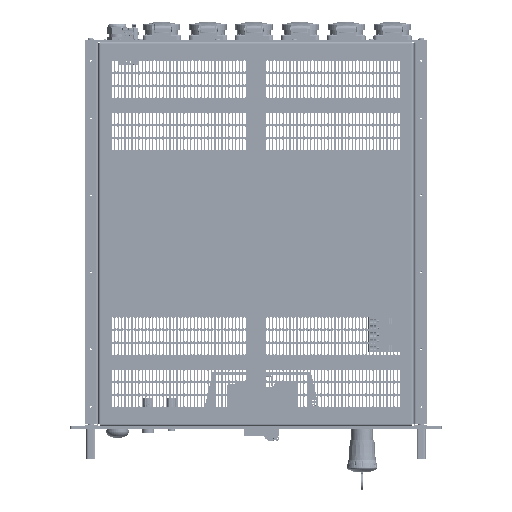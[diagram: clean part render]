
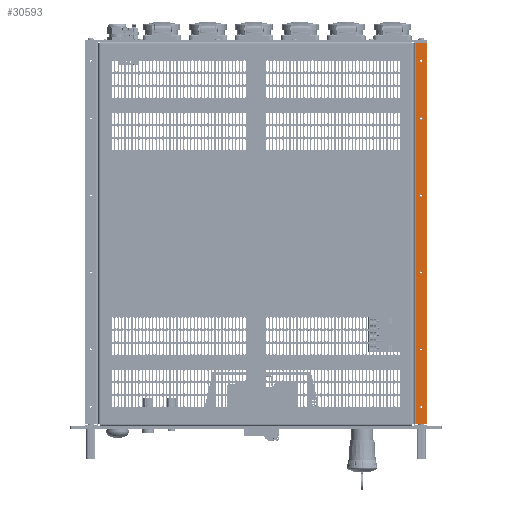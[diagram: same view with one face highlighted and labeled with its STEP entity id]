
A CAD part, top view. The second image highlights one B-rep face of the part: STEP entity #30593.
In plain terms, the highlighted planar face has unit normal (0, 0, 1) as drawn and (1, 0, 0) by its records, which use the part's own axes.
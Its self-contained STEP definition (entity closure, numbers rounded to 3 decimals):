
#30593=ADVANCED_FACE('',(#76111,#76112,#76113,#76114,#76115,#76116,#76117),#76118,.F.);
#76111=FACE_BOUND('',#131814,.T.);
#76112=FACE_BOUND('',#131815,.T.);
#76113=FACE_BOUND('',#131816,.T.);
#76114=FACE_BOUND('',#131817,.T.);
#76115=FACE_BOUND('',#131818,.T.);
#76116=FACE_BOUND('',#131819,.T.);
#76117=FACE_OUTER_BOUND('',#131820,.T.);
#76118=PLANE('',#131821);
#131814=EDGE_LOOP('',(#245655,#245656));
#131815=EDGE_LOOP('',(#245657,#245658));
#131816=EDGE_LOOP('',(#245659,#245660));
#131817=EDGE_LOOP('',(#245661,#245662));
#131818=EDGE_LOOP('',(#245663,#245664));
#131819=EDGE_LOOP('',(#245665,#245666));
#131820=EDGE_LOOP('',(#245667,#245668,#245669,#245670));
#131821=AXIS2_PLACEMENT_3D('',#245671,#245672,#245673);
#245655=ORIENTED_EDGE('',*,*,#355636,.T.);
#245656=ORIENTED_EDGE('',*,*,#358053,.T.);
#245657=ORIENTED_EDGE('',*,*,#358054,.T.);
#245658=ORIENTED_EDGE('',*,*,#355633,.T.);
#245659=ORIENTED_EDGE('',*,*,#358055,.T.);
#245660=ORIENTED_EDGE('',*,*,#355628,.T.);
#245661=ORIENTED_EDGE('',*,*,#358056,.T.);
#245662=ORIENTED_EDGE('',*,*,#355623,.T.);
#245663=ORIENTED_EDGE('',*,*,#358057,.T.);
#245664=ORIENTED_EDGE('',*,*,#355618,.T.);
#245665=ORIENTED_EDGE('',*,*,#358058,.T.);
#245666=ORIENTED_EDGE('',*,*,#355613,.T.);
#245667=ORIENTED_EDGE('',*,*,#357677,.F.);
#245668=ORIENTED_EDGE('',*,*,#358051,.T.);
#245669=ORIENTED_EDGE('',*,*,#358059,.T.);
#245670=ORIENTED_EDGE('',*,*,#358060,.T.);
#245671=CARTESIAN_POINT('',(83.6,250.0,8.5));
#245672=DIRECTION('',(-1.0,0.0,0.));
#245673=DIRECTION('',(0.,0.0,1.0));
#355613=EDGE_CURVE('',#419824,#419828,#419830,.F.);
#355618=EDGE_CURVE('',#419833,#419837,#419839,.T.);
#355623=EDGE_CURVE('',#419842,#419846,#419848,.T.);
#355628=EDGE_CURVE('',#419851,#419855,#419857,.F.);
#355633=EDGE_CURVE('',#419860,#419864,#419866,.F.);
#355636=EDGE_CURVE('',#419871,#419868,#419872,.T.);
#357677=EDGE_CURVE('',#423313,#423315,#423316,.T.);
#358051=EDGE_CURVE('',#423313,#423697,#423699,.T.);
#358053=EDGE_CURVE('',#419868,#419871,#423701,.T.);
#358054=EDGE_CURVE('',#419864,#419860,#423702,.F.);
#358055=EDGE_CURVE('',#419855,#419851,#423703,.F.);
#358056=EDGE_CURVE('',#419846,#419842,#423704,.T.);
#358057=EDGE_CURVE('',#419837,#419833,#423705,.T.);
#358058=EDGE_CURVE('',#419828,#419824,#423706,.F.);
#358059=EDGE_CURVE('',#423697,#423707,#423708,.T.);
#358060=EDGE_CURVE('',#423707,#423315,#423709,.T.);
#419824=VERTEX_POINT('',#507763);
#419828=VERTEX_POINT('',#507768);
#419830=CIRCLE('',#507771,1.75);
#419833=VERTEX_POINT('',#507774);
#419837=VERTEX_POINT('',#507779);
#419839=CIRCLE('',#507782,1.75);
#419842=VERTEX_POINT('',#507785);
#419846=VERTEX_POINT('',#507790);
#419848=CIRCLE('',#507793,1.75);
#419851=VERTEX_POINT('',#507796);
#419855=VERTEX_POINT('',#507801);
#419857=CIRCLE('',#507804,1.75);
#419860=VERTEX_POINT('',#507807);
#419864=VERTEX_POINT('',#507812);
#419866=CIRCLE('',#507815,1.75);
#419868=VERTEX_POINT('',#507817);
#419871=VERTEX_POINT('',#507821);
#419872=CIRCLE('',#507822,1.75);
#423313=VERTEX_POINT('',#512269);
#423315=VERTEX_POINT('',#512271);
#423316=LINE('',#512272,#512273);
#423697=VERTEX_POINT('',#512834);
#423699=LINE('',#512837,#512838);
#423701=CIRCLE('',#512840,1.75);
#423702=CIRCLE('',#512841,1.75);
#423703=CIRCLE('',#512842,1.75);
#423704=CIRCLE('',#512843,1.75);
#423705=CIRCLE('',#512844,1.75);
#423706=CIRCLE('',#512845,1.75);
#423707=VERTEX_POINT('',#512846);
#423708=LINE('',#512847,#512848);
#423709=LINE('',#512849,#512850);
#507763=CARTESIAN_POINT('',(83.6,25.0,9.0));
#507768=CARTESIAN_POINT('',(83.6,25.0,5.5));
#507771=AXIS2_PLACEMENT_3D('',#615406,#615407,#615408);
#507774=CARTESIAN_POINT('',(83.6,100.0,9.0));
#507779=CARTESIAN_POINT('',(83.6,100.0,5.5));
#507782=AXIS2_PLACEMENT_3D('',#615414,#615415,#615416);
#507785=CARTESIAN_POINT('',(83.6,300.0,9.0));
#507790=CARTESIAN_POINT('',(83.6,300.0,5.5));
#507793=AXIS2_PLACEMENT_3D('',#615422,#615423,#615424);
#507796=CARTESIAN_POINT('',(83.6,400.0,9.0));
#507801=CARTESIAN_POINT('',(83.6,400.0,5.5));
#507804=AXIS2_PLACEMENT_3D('',#615430,#615431,#615432);
#507807=CARTESIAN_POINT('',(83.6,475.0,9.0));
#507812=CARTESIAN_POINT('',(83.6,475.0,5.5));
#507815=AXIS2_PLACEMENT_3D('',#615438,#615439,#615440);
#507817=CARTESIAN_POINT('',(83.6,200.0,5.5));
#507821=CARTESIAN_POINT('',(83.6,200.0,9.0));
#507822=AXIS2_PLACEMENT_3D('',#615442,#615443,#615444);
#512269=CARTESIAN_POINT('',(83.6,2.5,14.0));
#512271=CARTESIAN_POINT('',(83.6,497.5,14.0));
#512272=CARTESIAN_POINT('',(83.6,250.0,14.0));
#512273=VECTOR('',#618635,1.0);
#512834=CARTESIAN_POINT('',(83.6,2.5,0.0));
#512837=CARTESIAN_POINT('',(83.6,2.5,8.5));
#512838=VECTOR('',#618847,1.0);
#512840=AXIS2_PLACEMENT_3D('',#618848,#618849,#618850);
#512841=AXIS2_PLACEMENT_3D('',#618851,#618852,#618853);
#512842=AXIS2_PLACEMENT_3D('',#618854,#618855,#618856);
#512843=AXIS2_PLACEMENT_3D('',#618857,#618858,#618859);
#512844=AXIS2_PLACEMENT_3D('',#618860,#618861,#618862);
#512845=AXIS2_PLACEMENT_3D('',#618863,#618864,#618865);
#512846=CARTESIAN_POINT('',(83.6,497.5,0.0));
#512847=CARTESIAN_POINT('',(83.6,250.0,0.0));
#512848=VECTOR('',#618866,1.0);
#512849=CARTESIAN_POINT('',(83.6,497.5,8.5));
#512850=VECTOR('',#618867,1.0);
#615406=CARTESIAN_POINT('',(83.6,25.0,7.25));
#615407=DIRECTION('',(1.0,0.0,0.));
#615408=DIRECTION('',(0.,0.0,1.0));
#615414=CARTESIAN_POINT('',(83.6,100.0,7.25));
#615415=DIRECTION('',(-1.0,0.0,0.));
#615416=DIRECTION('',(0.,0.0,1.0));
#615422=CARTESIAN_POINT('',(83.6,300.0,7.25));
#615423=DIRECTION('',(-1.0,0.0,0.));
#615424=DIRECTION('',(0.,0.0,1.0));
#615430=CARTESIAN_POINT('',(83.6,400.0,7.25));
#615431=DIRECTION('',(1.0,0.0,0.));
#615432=DIRECTION('',(0.,0.0,1.0));
#615438=CARTESIAN_POINT('',(83.6,475.0,7.25));
#615439=DIRECTION('',(1.0,0.0,0.));
#615440=DIRECTION('',(0.,0.0,1.0));
#615442=CARTESIAN_POINT('',(83.6,200.0,7.25));
#615443=DIRECTION('',(-1.0,0.0,0.));
#615444=DIRECTION('',(0.,0.0,-1.0));
#618635=DIRECTION('',(0.0,1.0,0.0));
#618847=DIRECTION('',(0.0,0.0,-1.0));
#618848=CARTESIAN_POINT('',(83.6,200.0,7.25));
#618849=DIRECTION('',(-1.0,0.0,0.));
#618850=DIRECTION('',(0.,0.0,-1.0));
#618851=CARTESIAN_POINT('',(83.6,475.0,7.25));
#618852=DIRECTION('',(1.0,0.0,0.));
#618853=DIRECTION('',(0.,0.0,1.0));
#618854=CARTESIAN_POINT('',(83.6,400.0,7.25));
#618855=DIRECTION('',(1.0,0.0,0.));
#618856=DIRECTION('',(0.,0.0,1.0));
#618857=CARTESIAN_POINT('',(83.6,300.0,7.25));
#618858=DIRECTION('',(-1.0,0.0,0.));
#618859=DIRECTION('',(0.,0.0,1.0));
#618860=CARTESIAN_POINT('',(83.6,100.0,7.25));
#618861=DIRECTION('',(-1.0,0.0,0.));
#618862=DIRECTION('',(0.,0.0,1.0));
#618863=CARTESIAN_POINT('',(83.6,25.0,7.25));
#618864=DIRECTION('',(1.0,0.0,0.));
#618865=DIRECTION('',(0.,0.0,1.0));
#618866=DIRECTION('',(0.0,1.0,0.0));
#618867=DIRECTION('',(0.0,0.0,1.0));
